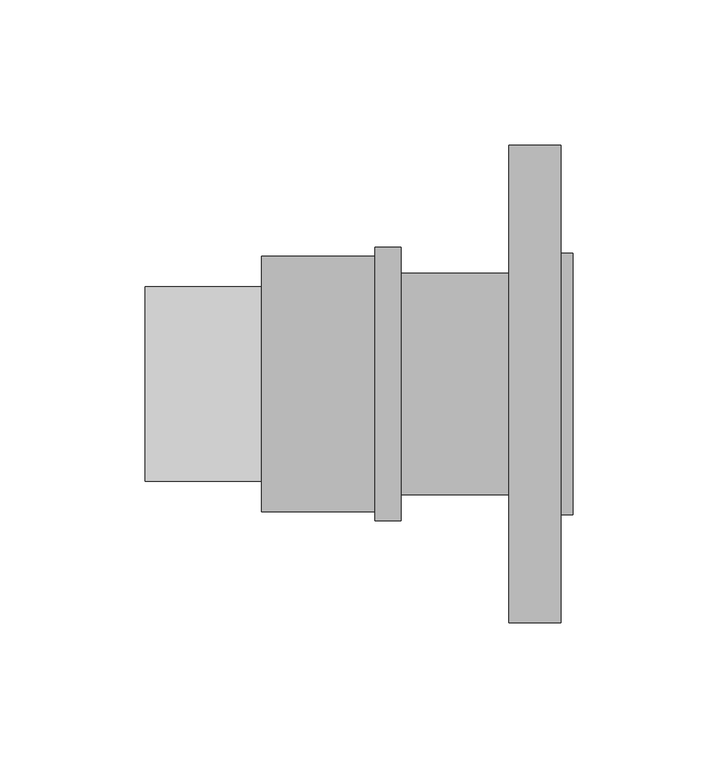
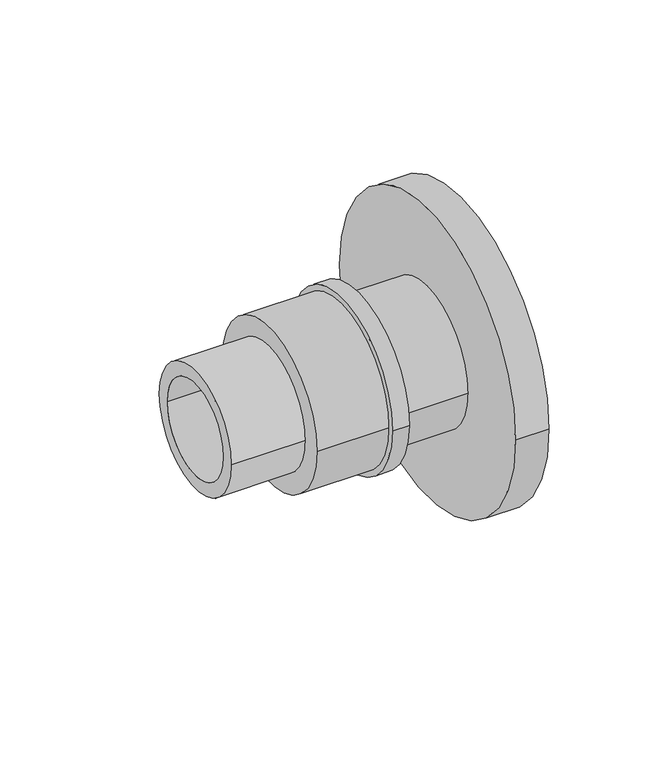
"""IFC4 building model written with IfcOpenShell, lengths in millimetres: pipe fitting geometry, Pipelife - PE - Złącze kołnierzowe : 50 x 2''."""

from ifc_helpers import new_model, si_unit, point, frame, origin, origin_2d, place, context, project, spatial, polyline, circle_curve, trimmed, segment, composite_curve, outline, extrude, source, transform, mapped, element, save
from ifc_brep_helpers import plane_surface, cylinder_surface, revolved_surface, advanced_brep


def pipe_fitting_de2e0121(model_context):
    return source(origin(), model_context, "Body", "SolidModel", [
        advanced_brep(
        [(0.0, -45.0, 0.0), (0.0, 45.0, 0.0), (0.0, -23.5, 0.0), (0.0, 23.5, 0.0), (-4.0, 45.0, 0.0), (-4.0, -45.0, 0.0), (-8.0, 23.5, 0.0), (-8.0, -23.5, 0.0), (-8.0, -26.0, 0.0), (-8.0, 26.0, 0.0), (-22.0, -26.0, 0.0), (-22.0, 26.0, 0.0), (-22.0, -82.0, 0.0), (-22.0, 82.0, 0.0), (-4.0, -82.0, 0.0), (-4.0, 82.0, 0.0)],
        [
            (0, 1, circle_curve(frame((0.0, 0.0, 0.0), z_axis=(1.0, 0.0, 0.0), x_axis=(0.0, 1.0, 0.0)), 45.0)),
            (1, 0, circle_curve(frame((0.0, 0.0, 0.0), z_axis=(1.0, 0.0, 0.0), x_axis=(0.0, 1.0, 0.0)), 45.0)),
            (2, 3, circle_curve(frame((0.0, 0.0, 0.0), z_axis=(-1.0, 0.0, 0.0), x_axis=(0.0, 1.0, 0.0)), 23.5)),
            (3, 2, circle_curve(frame((0.0, 0.0, 0.0), z_axis=(-1.0, 0.0, 0.0), x_axis=(0.0, 1.0, 0.0)), 23.5)),
            (1, 4),
            (4, 5, circle_curve(frame((-4.0, 0.0, 0.0), z_axis=(1.0, 0.0, 0.0), x_axis=(0.0, 1.0, 0.0)), 45.0)),
            (5, 0),
            (5, 4, circle_curve(frame((-4.0, 0.0, 0.0), z_axis=(1.0, 0.0, 0.0), x_axis=(0.0, 1.0, 0.0)), 45.0)),
            (6, 3),
            (2, 7),
            (7, 6, circle_curve(frame((-8.0, 0.0, 0.0), z_axis=(-1.0, 0.0, 0.0), x_axis=(0.0, 1.0, 0.0)), 23.5)),
            (6, 7, circle_curve(frame((-8.0, 0.0, 0.0), z_axis=(-1.0, 0.0, 0.0), x_axis=(0.0, 1.0, 0.0)), 23.5)),
            (8, 9, circle_curve(frame((-8.0, 0.0, 0.0), z_axis=(-1.0, 0.0, 0.0), x_axis=(0.0, 1.0, 0.0)), 26.0)),
            (9, 8, circle_curve(frame((-8.0, 0.0, 0.0), z_axis=(-1.0, 0.0, 0.0), x_axis=(0.0, 1.0, 0.0)), 26.0)),
            (8, 10),
            (10, 11, circle_curve(frame((-22.0, 0.0, 0.0), z_axis=(-1.0, 0.0, 0.0), x_axis=(0.0, 1.0, 0.0)), 26.0)),
            (11, 9),
            (11, 10, circle_curve(frame((-22.0, 0.0, 0.0), z_axis=(-1.0, 0.0, 0.0), x_axis=(0.0, 1.0, 0.0)), 26.0)),
            (12, 13, circle_curve(frame((-22.0, 0.0, 0.0), z_axis=(-1.0, 0.0, 0.0), x_axis=(0.0, 1.0, 0.0)), 82.0)),
            (13, 12, circle_curve(frame((-22.0, 0.0, 0.0), z_axis=(-1.0, 0.0, 0.0), x_axis=(0.0, 1.0, 0.0)), 82.0)),
            (14, 15, circle_curve(frame((-4.0, 0.0, 0.0), z_axis=(1.0, 0.0, 0.0), x_axis=(0.0, 1.0, 0.0)), 82.0)),
            (15, 14, circle_curve(frame((-4.0, 0.0, 0.0), z_axis=(1.0, 0.0, 0.0), x_axis=(0.0, 1.0, 0.0)), 82.0)),
            (12, 14),
            (15, 13),
        ],
        [
            plane_surface(frame((0.0, 0.0, 0.0), z_axis=(1.0, 0.0, 0.0), x_axis=(0.0, 0.0, 1.0))),
            cylinder_surface(frame((-4.0, 0.0, 0.0), z_axis=(-1.0, 0.0, 0.0), x_axis=(0.0, 1.0, 0.0)), 45.0),
            revolved_surface(polyline([(-8.0, 23.5, 0.0), (0.0, 23.5, 0.0)]), (-8.0, 0.0, 0.0), (-1.0, 0.0, 0.0)),
            plane_surface(frame((-8.0, 0.0, 0.0), z_axis=(-1.0, 0.0, 0.0), x_axis=(0.0, 0.0, 1.0))),
            revolved_surface(polyline([(-22.0, 26.0, 0.0), (-8.0, 26.0, 0.0)]), (-147.0, 0.0, 0.0), (-1.0, 0.0, 0.0)),
            plane_surface(frame((-22.0, 0.0, 0.0), z_axis=(-1.0, 0.0, 0.0), x_axis=(0.0, 0.0, 1.0))),
            plane_surface(frame((-4.0, 0.0, 0.0), z_axis=(1.0, 0.0, 0.0), x_axis=(0.0, 0.0, 1.0))),
            cylinder_surface(frame((-22.0, 0.0, 0.0), z_axis=(-1.0, 0.0, 0.0), x_axis=(0.0, 1.0, 0.0)), 82.0),
        ],
        [
            (0, [[1, 2], [3, 4]]),
            (1, [[-2, 5, 6, 7]]),
            (1, [[-1, -7, 8, -5]]),
            (2, [[9, -3, 10, 11]]),
            (2, [[-9, 12, -10, -4]]),
            (3, [[13, 14], [-11, -12]]),
            (4, [[-13, 15, 16, 17]]),
            (4, [[-14, -17, 18, -15]]),
            (5, [[19, 20], [-16, -18]]),
            (6, [[21, 22], [-6, -8]]),
            (7, [[-19, 23, -22, 24]]),
            (7, [[-20, -24, -21, -23]]),
        ],
    ),
        advanced_brep(
        [(-22.0, -26.0, 0.0), (-68.0, -26.0, 0.0), (-68.0, 26.0, 0.0), (-22.0, 26.0, 0.0), (-22.0, -38.0, 0.0), (-22.0, 38.0, 0.0), (-59.0, 38.0, 0.0), (-59.0, -38.0, 0.0), (-68.0, -47.0, 0.0), (-68.0, 47.0, 0.0), (-59.0, -47.0, 0.0), (-59.0, 47.0, 0.0)],
        [
            (0, 1),
            (1, 2, circle_curve(frame((-68.0, 0.0, 0.0), z_axis=(-1.0, 0.0, 0.0), x_axis=(0.0, 1.0, 0.0)), 26.0)),
            (2, 3),
            (3, 0, circle_curve(frame((-22.0, 0.0, 0.0), z_axis=(1.0, 0.0, 0.0), x_axis=(0.0, 1.0, 0.0)), 26.0)),
            (0, 3, circle_curve(frame((-22.0, 0.0, 0.0), z_axis=(1.0, 0.0, 0.0), x_axis=(0.0, 1.0, 0.0)), 26.0)),
            (2, 1, circle_curve(frame((-68.0, 0.0, 0.0), z_axis=(-1.0, 0.0, 0.0), x_axis=(0.0, 1.0, 0.0)), 26.0)),
            (4, 5, circle_curve(frame((-22.0, 0.0, 0.0), z_axis=(1.0, 0.0, 0.0), x_axis=(0.0, 1.0, 0.0)), 38.0)),
            (5, 4, circle_curve(frame((-22.0, 0.0, 0.0), z_axis=(1.0, 0.0, 0.0), x_axis=(0.0, 1.0, 0.0)), 38.0)),
            (5, 6),
            (6, 7, circle_curve(frame((-59.0, 0.0, 0.0), z_axis=(1.0, 0.0, 0.0), x_axis=(0.0, 1.0, 0.0)), 38.0)),
            (7, 4),
            (7, 6, circle_curve(frame((-59.0, 0.0, 0.0), z_axis=(1.0, 0.0, 0.0), x_axis=(0.0, 1.0, 0.0)), 38.0)),
            (8, 9, circle_curve(frame((-68.0, 0.0, 0.0), z_axis=(-1.0, 0.0, 0.0), x_axis=(0.0, 1.0, 0.0)), 47.0)),
            (9, 8, circle_curve(frame((-68.0, 0.0, 0.0), z_axis=(-1.0, 0.0, 0.0), x_axis=(0.0, 1.0, 0.0)), 47.0)),
            (10, 11, circle_curve(frame((-59.0, 0.0, 0.0), z_axis=(1.0, 0.0, 0.0), x_axis=(0.0, 1.0, 0.0)), 47.0)),
            (11, 10, circle_curve(frame((-59.0, 0.0, 0.0), z_axis=(1.0, 0.0, 0.0), x_axis=(0.0, 1.0, 0.0)), 47.0)),
            (8, 10),
            (11, 9),
        ],
        [
            revolved_surface(polyline([(-68.0, 26.0, 0.0), (-22.0, 26.0, 0.0)]), (-147.0, 0.0, 0.0), (-1.0, 0.0, 0.0)),
            plane_surface(frame((-22.0, 0.0, 0.0), z_axis=(1.0, 0.0, 0.0), x_axis=(0.0, 0.0, 1.0))),
            cylinder_surface(frame((-59.0, 0.0, 0.0), z_axis=(-1.0, 0.0, 0.0), x_axis=(0.0, 1.0, 0.0)), 38.0),
            plane_surface(frame((-68.0, 0.0, 0.0), z_axis=(-1.0, 0.0, 0.0), x_axis=(0.0, 0.0, 1.0))),
            plane_surface(frame((-59.0, 0.0, 0.0), z_axis=(1.0, 0.0, 0.0), x_axis=(0.0, 0.0, 1.0))),
            cylinder_surface(frame((-68.0, 0.0, 0.0), z_axis=(-1.0, 0.0, 0.0), x_axis=(0.0, 1.0, 0.0)), 47.0),
        ],
        [
            (0, [[1, 2, 3, 4]]),
            (0, [[-1, 5, -3, 6]]),
            (1, [[7, 8], [-4, -5]]),
            (2, [[-8, 9, 10, 11]]),
            (2, [[-7, -11, 12, -9]]),
            (3, [[13, 14], [-2, -6]]),
            (4, [[15, 16], [-10, -12]]),
            (5, [[-13, 17, -16, 18]]),
            (5, [[-14, -18, -15, -17]]),
        ],
    ),
        extrude(outline(composite_curve([segment(trimmed(circle_curve(origin_2d(), 44.0), [point((-44.0, 0.0))], [point((44.0, 0.0))], False, "CARTESIAN"), True, "CONTINUOUS"), segment(trimmed(circle_curve(origin_2d(), 44.0), [point((44.0, 0.0))], [point((-44.0, 0.0))], False, "CARTESIAN"), True, "CONTINUOUS")], self_intersect=False), holes=[composite_curve([segment(trimmed(circle_curve(origin_2d(), 26.0), [point((26.0, 0.0))], [point((-26.0, 0.0))], True, "CARTESIAN"), True, "CONTINUOUS"), segment(trimmed(circle_curve(origin_2d(), 26.0), [point((-26.0, 0.0))], [point((26.0, 0.0))], True, "CARTESIAN"), True, "CONTINUOUS")], self_intersect=False)]), frame((-107.0, 0.0, 0.0), z_axis=(1.0, 0.0, 0.0), x_axis=(0.0, 1.0, 0.0)), (0.0, 0.0, 1.0), 39.0),
        extrude(outline(composite_curve([segment(trimmed(circle_curve(origin_2d(), 33.5), [point((-33.5, 0.0))], [point((33.5, 0.0))], False, "CARTESIAN"), True, "CONTINUOUS"), segment(trimmed(circle_curve(origin_2d(), 33.5), [point((33.5, 0.0))], [point((-33.5, 0.0))], False, "CARTESIAN"), True, "CONTINUOUS")], self_intersect=False), holes=[composite_curve([segment(trimmed(circle_curve(origin_2d(), 26.0), [point((26.0, 0.0))], [point((-26.0, 0.0))], True, "CARTESIAN"), True, "CONTINUOUS"), segment(trimmed(circle_curve(origin_2d(), 26.0), [point((-26.0, 0.0))], [point((26.0, 0.0))], True, "CARTESIAN"), True, "CONTINUOUS")], self_intersect=False)]), frame((-147.0, 0.0, 0.0), z_axis=(1.0, 0.0, 0.0), x_axis=(0.0, 1.0, 0.0)), (0.0, 0.0, 1.0), 40.0),
    ])


if __name__ == "__main__":
    model = new_model("IFC4")
    model_context = context("Model", 3, world=origin())
    ifc_project = project(units=[si_unit("LENGTHUNIT", "METRE", prefix="MILLI")], contexts=[model_context])
    site = spatial("IfcSite", under=ifc_project)
    building = spatial("IfcBuilding", under=site)
    placement = place(None, origin())
    pipe_fitting_shape = pipe_fitting_de2e0121(model_context)
    element("IfcPipeFitting", 1, ObjectType="Pipelife - PE - Złącze kołnierzowe : 50 x 2''", at=placement, inside=building, context=model_context, shape_type="MappedRepresentation", body=[
        mapped(pipe_fitting_shape, transform((0.0, 0.0, 0.0), x_axis=(1.0, 0.0, 0.0), y_axis=(0.0, 1.0, 0.0), z_axis=(0.0, 0.0, 1.0))),
    ])
    save(model, "model.ifc")
